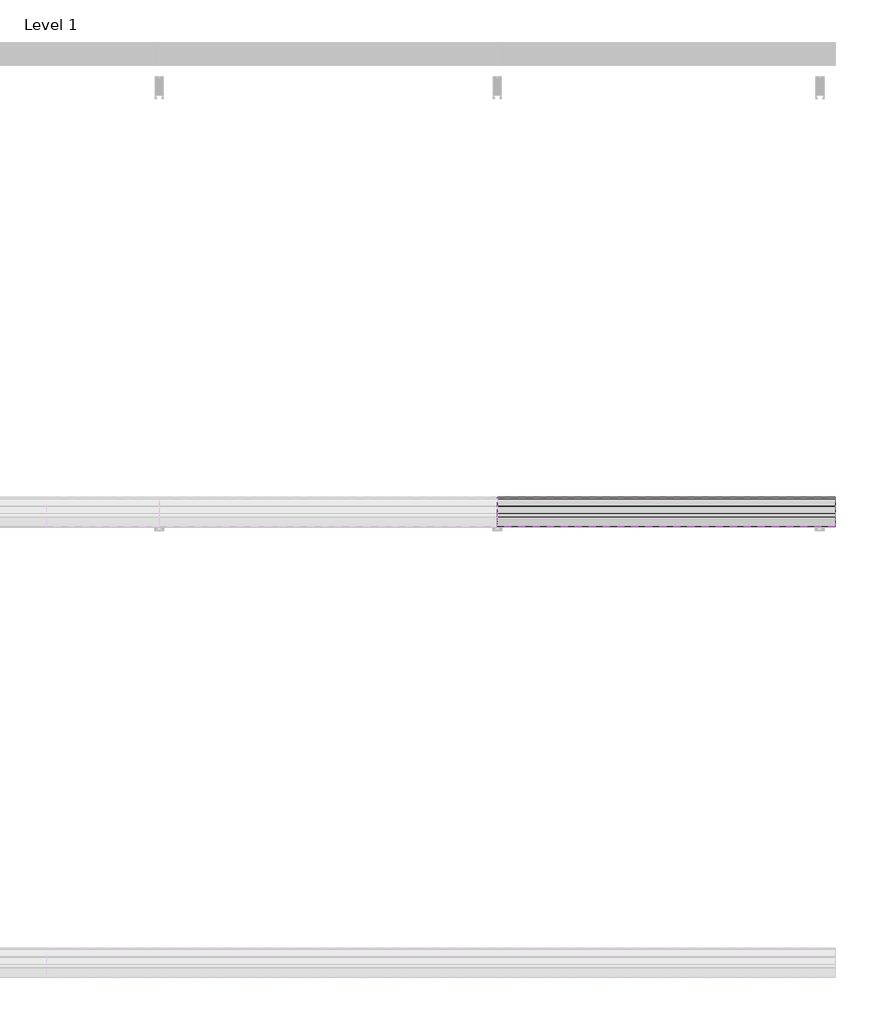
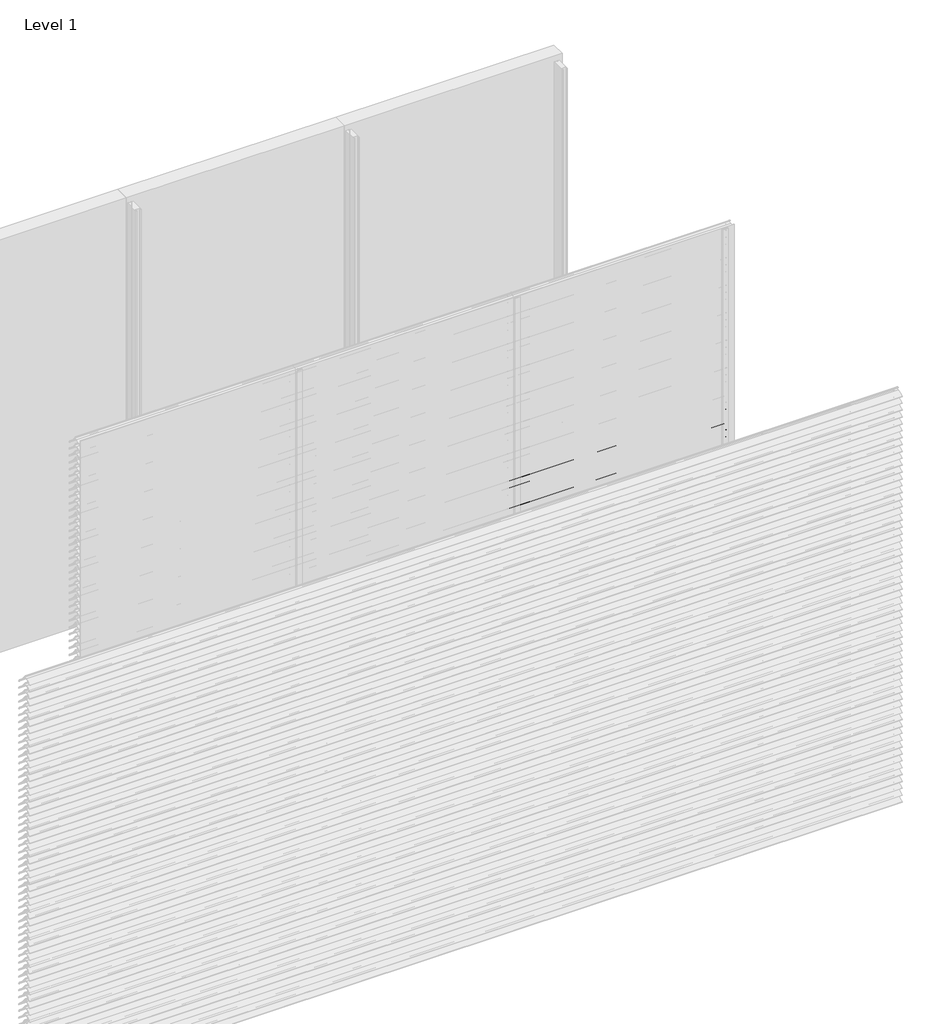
# One storey, part 104 of 173: 18 proxies.
"""IFC4 building model written with IfcOpenShell, lengths in millimetres."""

from ifc_helpers import new_model, si_unit, point, frame, frame_2d, origin, place, context, project, spatial, polyline, circle_curve, trimmed, segment, composite_curve, outline, extrude, element, save

model = new_model("IFC4")

# Units and contexts
model_context = context("Model", 3, world=origin())
ifc_project = project(units=[si_unit("LENGTHUNIT", "METRE", prefix="MILLI")], contexts=[model_context])

# Site, building, storey
site = spatial("IfcSite", under=ifc_project)
building = spatial("IfcBuilding", under=site)
storey = spatial("IfcBuildingStorey", under=building, Name="Level 1", Elevation=0.0)

# Proxies
placement = place(None, origin())
element("IfcBuildingElementProxy", 1, Name="Wall Sweeps", at=placement, inside=storey, context=model_context, shape_type="SweptSolid", body=[
    extrude(outline(composite_curve([segment(polyline([(-23998.0, 1609.1474905), (-23998.0, 1611.6227417)]), True, "CONTINUOUS"), segment(trimmed(circle_curve(frame_2d((-23951.2682172, 1566.2200208)), 65.1557103), [point((-23998.0, 1611.6227417))], [point((-23954.4014323, 1631.3003524))], False, "CARTESIAN"), True, "CONTINUOUS"), segment(polyline([(-23954.4014323, 1631.3003524), (-23934.8315836, 1631.3003524)]), True, "CONTINUOUS"), segment(trimmed(circle_curve(frame_2d((-23732.7329489, 1778.5533172)), 250.0545817), [point((-23934.8315836, 1631.3003524))], [point((-23941.4452143, 1640.8344583))], False, "CARTESIAN"), True, "CONTINUOUS"), segment(trimmed(circle_curve(frame_2d((-23953.2981792, 1635.1737835)), 13.1352966), [point((-23941.4452143, 1640.8344583))], [point((-23953.8171475, 1648.298824))], True, "CARTESIAN"), True, "CONTINUOUS"), segment(polyline([(-23953.8171475, 1648.298824), (-23953.8171475, 1650.0)]), True, "CONTINUOUS"), segment(trimmed(circle_curve(frame_2d((-23953.2981792, 1635.1737835)), 14.8352966), [point((-23953.8171475, 1650.0))], [point((-23939.9637661, 1641.6760487))], False, "CARTESIAN"), True, "CONTINUOUS"), segment(trimmed(circle_curve(frame_2d((-23732.7329489, 1778.5533172)), 248.3545817), [point((-23939.9637661, 1641.6760487))], [point((-23873.8787895, 1574.2059416))], True, "CARTESIAN"), True, "CONTINUOUS"), segment(trimmed(circle_curve(frame_2d((-23883.8147537, 1561.6649442)), 16.0), [point((-23873.8787895, 1574.2059416))], [point((-23867.8648347, 1560.4))], False, "CARTESIAN"), True, "CONTINUOUS"), segment(polyline([(-23867.8648347, 1560.4), (-23869.6712069, 1560.4)]), True, "CONTINUOUS"), segment(trimmed(circle_curve(frame_2d((-23883.8147537, 1561.6649442)), 14.2), [point((-23869.6712069, 1560.4))], [point((-23874.9518628, 1572.7594998))], True, "CARTESIAN"), True, "CONTINUOUS"), segment(trimmed(circle_curve(frame_2d((-23732.7329489, 1778.5533172)), 250.1545817), [point((-23874.9518628, 1572.7594998))], [point((-23933.7064024, 1629.6003524))], False, "CARTESIAN"), True, "CONTINUOUS"), segment(polyline([(-23933.7064024, 1629.6003524), (-23954.3602632, 1629.6003524)]), True, "CONTINUOUS"), segment(trimmed(circle_curve(frame_2d((-23951.2682172, 1566.2200208)), 63.4557103), [point((-23954.3602632, 1629.6003524))], [point((-23998.0, 1609.1474905))], True, "CARTESIAN"), True, "CONTINUOUS")], self_intersect=False)), frame((4500.0, 0.0, 0.0), z_axis=(1.0, 0.0, 0.0), x_axis=(0.0, 1.0, 0.0)), (0.0, 0.0, 1.0), 1500.0),
])
element("IfcBuildingElementProxy", 2, Name="Wall Sweeps", at=placement, inside=storey, context=model_context, shape_type="SweptSolid", body=[
    extrude(outline(composite_curve([segment(polyline([(-23998.0, 1559.1474905), (-23998.0, 1561.6227417)]), True, "CONTINUOUS"), segment(trimmed(circle_curve(frame_2d((-23951.2682172, 1516.2200208)), 65.1557103), [point((-23998.0, 1561.6227417))], [point((-23954.4014323, 1581.3003524))], False, "CARTESIAN"), True, "CONTINUOUS"), segment(polyline([(-23954.4014323, 1581.3003524), (-23934.8315836, 1581.3003524)]), True, "CONTINUOUS"), segment(trimmed(circle_curve(frame_2d((-23732.7329489, 1728.5533172)), 250.0545817), [point((-23934.8315836, 1581.3003524))], [point((-23941.4452143, 1590.8344583))], False, "CARTESIAN"), True, "CONTINUOUS"), segment(trimmed(circle_curve(frame_2d((-23953.2981792, 1585.1737835)), 13.1352966), [point((-23941.4452143, 1590.8344583))], [point((-23953.8171475, 1598.298824))], True, "CARTESIAN"), True, "CONTINUOUS"), segment(polyline([(-23953.8171475, 1598.298824), (-23953.8171475, 1600.0)]), True, "CONTINUOUS"), segment(trimmed(circle_curve(frame_2d((-23953.2981792, 1585.1737835)), 14.8352966), [point((-23953.8171475, 1600.0))], [point((-23939.9637661, 1591.6760487))], False, "CARTESIAN"), True, "CONTINUOUS"), segment(trimmed(circle_curve(frame_2d((-23732.7329489, 1728.5533172)), 248.3545817), [point((-23939.9637661, 1591.6760487))], [point((-23873.8787895, 1524.2059416))], True, "CARTESIAN"), True, "CONTINUOUS"), segment(trimmed(circle_curve(frame_2d((-23883.8147537, 1511.6649442)), 16.0), [point((-23873.8787895, 1524.2059416))], [point((-23867.8648347, 1510.4))], False, "CARTESIAN"), True, "CONTINUOUS"), segment(polyline([(-23867.8648347, 1510.4), (-23869.6712069, 1510.4)]), True, "CONTINUOUS"), segment(trimmed(circle_curve(frame_2d((-23883.8147537, 1511.6649442)), 14.2), [point((-23869.6712069, 1510.4))], [point((-23874.9518628, 1522.7594998))], True, "CARTESIAN"), True, "CONTINUOUS"), segment(trimmed(circle_curve(frame_2d((-23732.7329489, 1728.5533172)), 250.1545817), [point((-23874.9518628, 1522.7594998))], [point((-23933.7064024, 1579.6003524))], False, "CARTESIAN"), True, "CONTINUOUS"), segment(polyline([(-23933.7064024, 1579.6003524), (-23954.3602632, 1579.6003524)]), True, "CONTINUOUS"), segment(trimmed(circle_curve(frame_2d((-23951.2682172, 1516.2200208)), 63.4557103), [point((-23954.3602632, 1579.6003524))], [point((-23998.0, 1559.1474905))], True, "CARTESIAN"), True, "CONTINUOUS")], self_intersect=False)), frame((4500.0, 0.0, 0.0), z_axis=(1.0, 0.0, 0.0), x_axis=(0.0, 1.0, 0.0)), (0.0, 0.0, 1.0), 1500.0),
])
element("IfcBuildingElementProxy", 3, Name="Wall Sweeps", at=placement, inside=storey, context=model_context, shape_type="SweptSolid", body=[
    extrude(outline(composite_curve([segment(polyline([(-23998.0, 1509.1474905), (-23998.0, 1511.6227417)]), True, "CONTINUOUS"), segment(trimmed(circle_curve(frame_2d((-23951.2682172, 1466.2200208)), 65.1557103), [point((-23998.0, 1511.6227417))], [point((-23954.4014323, 1531.3003524))], False, "CARTESIAN"), True, "CONTINUOUS"), segment(polyline([(-23954.4014323, 1531.3003524), (-23934.8315836, 1531.3003524)]), True, "CONTINUOUS"), segment(trimmed(circle_curve(frame_2d((-23732.7329489, 1678.5533172)), 250.0545817), [point((-23934.8315836, 1531.3003524))], [point((-23941.4452143, 1540.8344583))], False, "CARTESIAN"), True, "CONTINUOUS"), segment(trimmed(circle_curve(frame_2d((-23953.2981792, 1535.1737835)), 13.1352966), [point((-23941.4452143, 1540.8344583))], [point((-23953.8171475, 1548.298824))], True, "CARTESIAN"), True, "CONTINUOUS"), segment(polyline([(-23953.8171475, 1548.298824), (-23953.8171475, 1550.0)]), True, "CONTINUOUS"), segment(trimmed(circle_curve(frame_2d((-23953.2981792, 1535.1737835)), 14.8352966), [point((-23953.8171475, 1550.0))], [point((-23939.9637661, 1541.6760487))], False, "CARTESIAN"), True, "CONTINUOUS"), segment(trimmed(circle_curve(frame_2d((-23732.7329489, 1678.5533172)), 248.3545817), [point((-23939.9637661, 1541.6760487))], [point((-23873.8787895, 1474.2059416))], True, "CARTESIAN"), True, "CONTINUOUS"), segment(trimmed(circle_curve(frame_2d((-23883.8147537, 1461.6649442)), 16.0), [point((-23873.8787895, 1474.2059416))], [point((-23867.8648347, 1460.4))], False, "CARTESIAN"), True, "CONTINUOUS"), segment(polyline([(-23867.8648347, 1460.4), (-23869.6712069, 1460.4)]), True, "CONTINUOUS"), segment(trimmed(circle_curve(frame_2d((-23883.8147537, 1461.6649442)), 14.2), [point((-23869.6712069, 1460.4))], [point((-23874.9518628, 1472.7594998))], True, "CARTESIAN"), True, "CONTINUOUS"), segment(trimmed(circle_curve(frame_2d((-23732.7329489, 1678.5533172)), 250.1545817), [point((-23874.9518628, 1472.7594998))], [point((-23933.7064024, 1529.6003524))], False, "CARTESIAN"), True, "CONTINUOUS"), segment(polyline([(-23933.7064024, 1529.6003524), (-23954.3602632, 1529.6003524)]), True, "CONTINUOUS"), segment(trimmed(circle_curve(frame_2d((-23951.2682172, 1466.2200208)), 63.4557103), [point((-23954.3602632, 1529.6003524))], [point((-23998.0, 1509.1474905))], True, "CARTESIAN"), True, "CONTINUOUS")], self_intersect=False)), frame((4500.0, 0.0, 0.0), z_axis=(1.0, 0.0, 0.0), x_axis=(0.0, 1.0, 0.0)), (0.0, 0.0, 1.0), 1500.0),
])
element("IfcBuildingElementProxy", 4, Name="Wall Sweeps", at=placement, inside=storey, context=model_context, shape_type="SweptSolid", body=[
    extrude(outline(composite_curve([segment(polyline([(-23998.0, 1459.1474905), (-23998.0, 1461.6227417)]), True, "CONTINUOUS"), segment(trimmed(circle_curve(frame_2d((-23951.2682172, 1416.2200208)), 65.1557103), [point((-23998.0, 1461.6227417))], [point((-23954.4014323, 1481.3003524))], False, "CARTESIAN"), True, "CONTINUOUS"), segment(polyline([(-23954.4014323, 1481.3003524), (-23934.8315836, 1481.3003524)]), True, "CONTINUOUS"), segment(trimmed(circle_curve(frame_2d((-23732.7329489, 1628.5533172)), 250.0545817), [point((-23934.8315836, 1481.3003524))], [point((-23941.4452143, 1490.8344583))], False, "CARTESIAN"), True, "CONTINUOUS"), segment(trimmed(circle_curve(frame_2d((-23953.2981792, 1485.1737835)), 13.1352966), [point((-23941.4452143, 1490.8344583))], [point((-23953.8171475, 1498.298824))], True, "CARTESIAN"), True, "CONTINUOUS"), segment(polyline([(-23953.8171475, 1498.298824), (-23953.8171475, 1500.0)]), True, "CONTINUOUS"), segment(trimmed(circle_curve(frame_2d((-23953.2981792, 1485.1737835)), 14.8352966), [point((-23953.8171475, 1500.0))], [point((-23939.9637661, 1491.6760487))], False, "CARTESIAN"), True, "CONTINUOUS"), segment(trimmed(circle_curve(frame_2d((-23732.7329489, 1628.5533172)), 248.3545817), [point((-23939.9637661, 1491.6760487))], [point((-23873.8787895, 1424.2059416))], True, "CARTESIAN"), True, "CONTINUOUS"), segment(trimmed(circle_curve(frame_2d((-23883.8147537, 1411.6649442)), 16.0), [point((-23873.8787895, 1424.2059416))], [point((-23867.8648347, 1410.4))], False, "CARTESIAN"), True, "CONTINUOUS"), segment(polyline([(-23867.8648347, 1410.4), (-23869.6712069, 1410.4)]), True, "CONTINUOUS"), segment(trimmed(circle_curve(frame_2d((-23883.8147537, 1411.6649442)), 14.2), [point((-23869.6712069, 1410.4))], [point((-23874.9518628, 1422.7594998))], True, "CARTESIAN"), True, "CONTINUOUS"), segment(trimmed(circle_curve(frame_2d((-23732.7329489, 1628.5533172)), 250.1545817), [point((-23874.9518628, 1422.7594998))], [point((-23933.7064024, 1479.6003524))], False, "CARTESIAN"), True, "CONTINUOUS"), segment(polyline([(-23933.7064024, 1479.6003524), (-23954.3602632, 1479.6003524)]), True, "CONTINUOUS"), segment(trimmed(circle_curve(frame_2d((-23951.2682172, 1416.2200208)), 63.4557103), [point((-23954.3602632, 1479.6003524))], [point((-23998.0, 1459.1474905))], True, "CARTESIAN"), True, "CONTINUOUS")], self_intersect=False)), frame((4500.0, 0.0, 0.0), z_axis=(1.0, 0.0, 0.0), x_axis=(0.0, 1.0, 0.0)), (0.0, 0.0, 1.0), 1500.0),
])
element("IfcBuildingElementProxy", 5, Name="Wall Sweeps", at=placement, inside=storey, context=model_context, shape_type="SweptSolid", body=[
    extrude(outline(composite_curve([segment(polyline([(-23998.0, 1409.1474905), (-23998.0, 1411.6227417)]), True, "CONTINUOUS"), segment(trimmed(circle_curve(frame_2d((-23951.2682172, 1366.2200208)), 65.1557103), [point((-23998.0, 1411.6227417))], [point((-23954.4014323, 1431.3003524))], False, "CARTESIAN"), True, "CONTINUOUS"), segment(polyline([(-23954.4014323, 1431.3003524), (-23934.8315836, 1431.3003524)]), True, "CONTINUOUS"), segment(trimmed(circle_curve(frame_2d((-23732.7329489, 1578.5533172)), 250.0545817), [point((-23934.8315836, 1431.3003524))], [point((-23941.4452143, 1440.8344583))], False, "CARTESIAN"), True, "CONTINUOUS"), segment(trimmed(circle_curve(frame_2d((-23953.2981792, 1435.1737835)), 13.1352966), [point((-23941.4452143, 1440.8344583))], [point((-23953.8171475, 1448.298824))], True, "CARTESIAN"), True, "CONTINUOUS"), segment(polyline([(-23953.8171475, 1448.298824), (-23953.8171475, 1450.0)]), True, "CONTINUOUS"), segment(trimmed(circle_curve(frame_2d((-23953.2981792, 1435.1737835)), 14.8352966), [point((-23953.8171475, 1450.0))], [point((-23939.9637661, 1441.6760487))], False, "CARTESIAN"), True, "CONTINUOUS"), segment(trimmed(circle_curve(frame_2d((-23732.7329489, 1578.5533172)), 248.3545817), [point((-23939.9637661, 1441.6760487))], [point((-23873.8787895, 1374.2059416))], True, "CARTESIAN"), True, "CONTINUOUS"), segment(trimmed(circle_curve(frame_2d((-23883.8147537, 1361.6649442)), 16.0), [point((-23873.8787895, 1374.2059416))], [point((-23867.8648347, 1360.4))], False, "CARTESIAN"), True, "CONTINUOUS"), segment(polyline([(-23867.8648347, 1360.4), (-23869.6712069, 1360.4)]), True, "CONTINUOUS"), segment(trimmed(circle_curve(frame_2d((-23883.8147537, 1361.6649442)), 14.2), [point((-23869.6712069, 1360.4))], [point((-23874.9518628, 1372.7594998))], True, "CARTESIAN"), True, "CONTINUOUS"), segment(trimmed(circle_curve(frame_2d((-23732.7329489, 1578.5533172)), 250.1545817), [point((-23874.9518628, 1372.7594998))], [point((-23933.7064024, 1429.6003524))], False, "CARTESIAN"), True, "CONTINUOUS"), segment(polyline([(-23933.7064024, 1429.6003524), (-23954.3602632, 1429.6003524)]), True, "CONTINUOUS"), segment(trimmed(circle_curve(frame_2d((-23951.2682172, 1366.2200208)), 63.4557103), [point((-23954.3602632, 1429.6003524))], [point((-23998.0, 1409.1474905))], True, "CARTESIAN"), True, "CONTINUOUS")], self_intersect=False)), frame((4500.0, 0.0, 0.0), z_axis=(1.0, 0.0, 0.0), x_axis=(0.0, 1.0, 0.0)), (0.0, 0.0, 1.0), 1500.0),
])
element("IfcBuildingElementProxy", 6, Name="Wall Sweeps", at=placement, inside=storey, context=model_context, shape_type="SweptSolid", body=[
    extrude(outline(composite_curve([segment(polyline([(-23998.0, 1359.1474905), (-23998.0, 1361.6227417)]), True, "CONTINUOUS"), segment(trimmed(circle_curve(frame_2d((-23951.2682172, 1316.2200208)), 65.1557103), [point((-23998.0, 1361.6227417))], [point((-23954.4014323, 1381.3003524))], False, "CARTESIAN"), True, "CONTINUOUS"), segment(polyline([(-23954.4014323, 1381.3003524), (-23934.8315836, 1381.3003524)]), True, "CONTINUOUS"), segment(trimmed(circle_curve(frame_2d((-23732.7329489, 1528.5533172)), 250.0545817), [point((-23934.8315836, 1381.3003524))], [point((-23941.4452143, 1390.8344583))], False, "CARTESIAN"), True, "CONTINUOUS"), segment(trimmed(circle_curve(frame_2d((-23953.2981792, 1385.1737835)), 13.1352966), [point((-23941.4452143, 1390.8344583))], [point((-23953.8171475, 1398.298824))], True, "CARTESIAN"), True, "CONTINUOUS"), segment(polyline([(-23953.8171475, 1398.298824), (-23953.8171475, 1400.0)]), True, "CONTINUOUS"), segment(trimmed(circle_curve(frame_2d((-23953.2981792, 1385.1737835)), 14.8352966), [point((-23953.8171475, 1400.0))], [point((-23939.9637661, 1391.6760487))], False, "CARTESIAN"), True, "CONTINUOUS"), segment(trimmed(circle_curve(frame_2d((-23732.7329489, 1528.5533172)), 248.3545817), [point((-23939.9637661, 1391.6760487))], [point((-23873.8787895, 1324.2059416))], True, "CARTESIAN"), True, "CONTINUOUS"), segment(trimmed(circle_curve(frame_2d((-23883.8147537, 1311.6649442)), 16.0), [point((-23873.8787895, 1324.2059416))], [point((-23867.8648347, 1310.4))], False, "CARTESIAN"), True, "CONTINUOUS"), segment(polyline([(-23867.8648347, 1310.4), (-23869.6712069, 1310.4)]), True, "CONTINUOUS"), segment(trimmed(circle_curve(frame_2d((-23883.8147537, 1311.6649442)), 14.2), [point((-23869.6712069, 1310.4))], [point((-23874.9518628, 1322.7594998))], True, "CARTESIAN"), True, "CONTINUOUS"), segment(trimmed(circle_curve(frame_2d((-23732.7329489, 1528.5533172)), 250.1545817), [point((-23874.9518628, 1322.7594998))], [point((-23933.7064024, 1379.6003524))], False, "CARTESIAN"), True, "CONTINUOUS"), segment(polyline([(-23933.7064024, 1379.6003524), (-23954.3602632, 1379.6003524)]), True, "CONTINUOUS"), segment(trimmed(circle_curve(frame_2d((-23951.2682172, 1316.2200208)), 63.4557103), [point((-23954.3602632, 1379.6003524))], [point((-23998.0, 1359.1474905))], True, "CARTESIAN"), True, "CONTINUOUS")], self_intersect=False)), frame((4500.0, 0.0, 0.0), z_axis=(1.0, 0.0, 0.0), x_axis=(0.0, 1.0, 0.0)), (0.0, 0.0, 1.0), 1500.0),
])
element("IfcBuildingElementProxy", 7, Name="Wall Sweeps", at=placement, inside=storey, context=model_context, shape_type="SweptSolid", body=[
    extrude(outline(composite_curve([segment(polyline([(-23998.0, 1309.1474905), (-23998.0, 1311.6227417)]), True, "CONTINUOUS"), segment(trimmed(circle_curve(frame_2d((-23951.2682172, 1266.2200208)), 65.1557103), [point((-23998.0, 1311.6227417))], [point((-23954.4014323, 1331.3003524))], False, "CARTESIAN"), True, "CONTINUOUS"), segment(polyline([(-23954.4014323, 1331.3003524), (-23934.8315836, 1331.3003524)]), True, "CONTINUOUS"), segment(trimmed(circle_curve(frame_2d((-23732.7329489, 1478.5533172)), 250.0545817), [point((-23934.8315836, 1331.3003524))], [point((-23941.4452143, 1340.8344583))], False, "CARTESIAN"), True, "CONTINUOUS"), segment(trimmed(circle_curve(frame_2d((-23953.2981792, 1335.1737835)), 13.1352966), [point((-23941.4452143, 1340.8344583))], [point((-23953.8171475, 1348.298824))], True, "CARTESIAN"), True, "CONTINUOUS"), segment(polyline([(-23953.8171475, 1348.298824), (-23953.8171475, 1350.0)]), True, "CONTINUOUS"), segment(trimmed(circle_curve(frame_2d((-23953.2981792, 1335.1737835)), 14.8352966), [point((-23953.8171475, 1350.0))], [point((-23939.9637661, 1341.6760487))], False, "CARTESIAN"), True, "CONTINUOUS"), segment(trimmed(circle_curve(frame_2d((-23732.7329489, 1478.5533172)), 248.3545817), [point((-23939.9637661, 1341.6760487))], [point((-23873.8787895, 1274.2059416))], True, "CARTESIAN"), True, "CONTINUOUS"), segment(trimmed(circle_curve(frame_2d((-23883.8147537, 1261.6649442)), 16.0), [point((-23873.8787895, 1274.2059416))], [point((-23867.8648347, 1260.4))], False, "CARTESIAN"), True, "CONTINUOUS"), segment(polyline([(-23867.8648347, 1260.4), (-23869.6712069, 1260.4)]), True, "CONTINUOUS"), segment(trimmed(circle_curve(frame_2d((-23883.8147537, 1261.6649442)), 14.2), [point((-23869.6712069, 1260.4))], [point((-23874.9518628, 1272.7594998))], True, "CARTESIAN"), True, "CONTINUOUS"), segment(trimmed(circle_curve(frame_2d((-23732.7329489, 1478.5533172)), 250.1545817), [point((-23874.9518628, 1272.7594998))], [point((-23933.7064024, 1329.6003524))], False, "CARTESIAN"), True, "CONTINUOUS"), segment(polyline([(-23933.7064024, 1329.6003524), (-23954.3602632, 1329.6003524)]), True, "CONTINUOUS"), segment(trimmed(circle_curve(frame_2d((-23951.2682172, 1266.2200208)), 63.4557103), [point((-23954.3602632, 1329.6003524))], [point((-23998.0, 1309.1474905))], True, "CARTESIAN"), True, "CONTINUOUS")], self_intersect=False)), frame((4500.0, 0.0, 0.0), z_axis=(1.0, 0.0, 0.0), x_axis=(0.0, 1.0, 0.0)), (0.0, 0.0, 1.0), 1500.0),
])
element("IfcBuildingElementProxy", 8, Name="Wall Sweeps", at=placement, inside=storey, context=model_context, shape_type="SweptSolid", body=[
    extrude(outline(composite_curve([segment(polyline([(-23998.0, 1259.1474905), (-23998.0, 1261.6227417)]), True, "CONTINUOUS"), segment(trimmed(circle_curve(frame_2d((-23951.2682172, 1216.2200208)), 65.1557103), [point((-23998.0, 1261.6227417))], [point((-23954.4014323, 1281.3003524))], False, "CARTESIAN"), True, "CONTINUOUS"), segment(polyline([(-23954.4014323, 1281.3003524), (-23934.8315836, 1281.3003524)]), True, "CONTINUOUS"), segment(trimmed(circle_curve(frame_2d((-23732.7329489, 1428.5533172)), 250.0545817), [point((-23934.8315836, 1281.3003524))], [point((-23941.4452143, 1290.8344583))], False, "CARTESIAN"), True, "CONTINUOUS"), segment(trimmed(circle_curve(frame_2d((-23953.2981792, 1285.1737835)), 13.1352966), [point((-23941.4452143, 1290.8344583))], [point((-23953.8171475, 1298.298824))], True, "CARTESIAN"), True, "CONTINUOUS"), segment(polyline([(-23953.8171475, 1298.298824), (-23953.8171475, 1300.0)]), True, "CONTINUOUS"), segment(trimmed(circle_curve(frame_2d((-23953.2981792, 1285.1737835)), 14.8352966), [point((-23953.8171475, 1300.0))], [point((-23939.9637661, 1291.6760487))], False, "CARTESIAN"), True, "CONTINUOUS"), segment(trimmed(circle_curve(frame_2d((-23732.7329489, 1428.5533172)), 248.3545817), [point((-23939.9637661, 1291.6760487))], [point((-23873.8787895, 1224.2059416))], True, "CARTESIAN"), True, "CONTINUOUS"), segment(trimmed(circle_curve(frame_2d((-23883.8147537, 1211.6649442)), 16.0), [point((-23873.8787895, 1224.2059416))], [point((-23867.8648347, 1210.4))], False, "CARTESIAN"), True, "CONTINUOUS"), segment(polyline([(-23867.8648347, 1210.4), (-23869.6712069, 1210.4)]), True, "CONTINUOUS"), segment(trimmed(circle_curve(frame_2d((-23883.8147537, 1211.6649442)), 14.2), [point((-23869.6712069, 1210.4))], [point((-23874.9518628, 1222.7594998))], True, "CARTESIAN"), True, "CONTINUOUS"), segment(trimmed(circle_curve(frame_2d((-23732.7329489, 1428.5533172)), 250.1545817), [point((-23874.9518628, 1222.7594998))], [point((-23933.7064024, 1279.6003524))], False, "CARTESIAN"), True, "CONTINUOUS"), segment(polyline([(-23933.7064024, 1279.6003524), (-23954.3602632, 1279.6003524)]), True, "CONTINUOUS"), segment(trimmed(circle_curve(frame_2d((-23951.2682172, 1216.2200208)), 63.4557103), [point((-23954.3602632, 1279.6003524))], [point((-23998.0, 1259.1474905))], True, "CARTESIAN"), True, "CONTINUOUS")], self_intersect=False)), frame((4500.0, 0.0, 0.0), z_axis=(1.0, 0.0, 0.0), x_axis=(0.0, 1.0, 0.0)), (0.0, 0.0, 1.0), 1500.0),
])
element("IfcBuildingElementProxy", 9, Name="Wall Sweeps", at=placement, inside=storey, context=model_context, shape_type="SweptSolid", body=[
    extrude(outline(composite_curve([segment(polyline([(-23998.0, 1209.1474905), (-23998.0, 1211.6227417)]), True, "CONTINUOUS"), segment(trimmed(circle_curve(frame_2d((-23951.2682172, 1166.2200208)), 65.1557103), [point((-23998.0, 1211.6227417))], [point((-23954.4014323, 1231.3003524))], False, "CARTESIAN"), True, "CONTINUOUS"), segment(polyline([(-23954.4014323, 1231.3003524), (-23934.8315836, 1231.3003524)]), True, "CONTINUOUS"), segment(trimmed(circle_curve(frame_2d((-23732.7329489, 1378.5533172)), 250.0545817), [point((-23934.8315836, 1231.3003524))], [point((-23941.4452143, 1240.8344583))], False, "CARTESIAN"), True, "CONTINUOUS"), segment(trimmed(circle_curve(frame_2d((-23953.2981792, 1235.1737835)), 13.1352966), [point((-23941.4452143, 1240.8344583))], [point((-23953.8171475, 1248.298824))], True, "CARTESIAN"), True, "CONTINUOUS"), segment(polyline([(-23953.8171475, 1248.298824), (-23953.8171475, 1250.0)]), True, "CONTINUOUS"), segment(trimmed(circle_curve(frame_2d((-23953.2981792, 1235.1737835)), 14.8352966), [point((-23953.8171475, 1250.0))], [point((-23939.9637661, 1241.6760487))], False, "CARTESIAN"), True, "CONTINUOUS"), segment(trimmed(circle_curve(frame_2d((-23732.7329489, 1378.5533172)), 248.3545817), [point((-23939.9637661, 1241.6760487))], [point((-23873.8787895, 1174.2059416))], True, "CARTESIAN"), True, "CONTINUOUS"), segment(trimmed(circle_curve(frame_2d((-23883.8147537, 1161.6649442)), 16.0), [point((-23873.8787895, 1174.2059416))], [point((-23867.8648347, 1160.4))], False, "CARTESIAN"), True, "CONTINUOUS"), segment(polyline([(-23867.8648347, 1160.4), (-23869.6712069, 1160.4)]), True, "CONTINUOUS"), segment(trimmed(circle_curve(frame_2d((-23883.8147537, 1161.6649442)), 14.2), [point((-23869.6712069, 1160.4))], [point((-23874.9518628, 1172.7594998))], True, "CARTESIAN"), True, "CONTINUOUS"), segment(trimmed(circle_curve(frame_2d((-23732.7329489, 1378.5533172)), 250.1545817), [point((-23874.9518628, 1172.7594998))], [point((-23933.7064024, 1229.6003524))], False, "CARTESIAN"), True, "CONTINUOUS"), segment(polyline([(-23933.7064024, 1229.6003524), (-23954.3602632, 1229.6003524)]), True, "CONTINUOUS"), segment(trimmed(circle_curve(frame_2d((-23951.2682172, 1166.2200208)), 63.4557103), [point((-23954.3602632, 1229.6003524))], [point((-23998.0, 1209.1474905))], True, "CARTESIAN"), True, "CONTINUOUS")], self_intersect=False)), frame((4500.0, 0.0, 0.0), z_axis=(1.0, 0.0, 0.0), x_axis=(0.0, 1.0, 0.0)), (0.0, 0.0, 1.0), 1500.0),
])
element("IfcBuildingElementProxy", 10, Name="Wall Sweeps", at=placement, inside=storey, context=model_context, shape_type="SweptSolid", body=[
    extrude(outline(composite_curve([segment(polyline([(-23998.0, 1159.1474905), (-23998.0, 1161.6227417)]), True, "CONTINUOUS"), segment(trimmed(circle_curve(frame_2d((-23951.2682172, 1116.2200208)), 65.1557103), [point((-23998.0, 1161.6227417))], [point((-23954.4014323, 1181.3003524))], False, "CARTESIAN"), True, "CONTINUOUS"), segment(polyline([(-23954.4014323, 1181.3003524), (-23934.8315836, 1181.3003524)]), True, "CONTINUOUS"), segment(trimmed(circle_curve(frame_2d((-23732.7329489, 1328.5533172)), 250.0545817), [point((-23934.8315836, 1181.3003524))], [point((-23941.4452143, 1190.8344583))], False, "CARTESIAN"), True, "CONTINUOUS"), segment(trimmed(circle_curve(frame_2d((-23953.2981792, 1185.1737835)), 13.1352966), [point((-23941.4452143, 1190.8344583))], [point((-23953.8171475, 1198.298824))], True, "CARTESIAN"), True, "CONTINUOUS"), segment(polyline([(-23953.8171475, 1198.298824), (-23953.8171475, 1200.0)]), True, "CONTINUOUS"), segment(trimmed(circle_curve(frame_2d((-23953.2981792, 1185.1737835)), 14.8352966), [point((-23953.8171475, 1200.0))], [point((-23939.9637661, 1191.6760487))], False, "CARTESIAN"), True, "CONTINUOUS"), segment(trimmed(circle_curve(frame_2d((-23732.7329489, 1328.5533172)), 248.3545817), [point((-23939.9637661, 1191.6760487))], [point((-23873.8787895, 1124.2059416))], True, "CARTESIAN"), True, "CONTINUOUS"), segment(trimmed(circle_curve(frame_2d((-23883.8147537, 1111.6649442)), 16.0), [point((-23873.8787895, 1124.2059416))], [point((-23867.8648347, 1110.4))], False, "CARTESIAN"), True, "CONTINUOUS"), segment(polyline([(-23867.8648347, 1110.4), (-23869.6712069, 1110.4)]), True, "CONTINUOUS"), segment(trimmed(circle_curve(frame_2d((-23883.8147537, 1111.6649442)), 14.2), [point((-23869.6712069, 1110.4))], [point((-23874.9518628, 1122.7594998))], True, "CARTESIAN"), True, "CONTINUOUS"), segment(trimmed(circle_curve(frame_2d((-23732.7329489, 1328.5533172)), 250.1545817), [point((-23874.9518628, 1122.7594998))], [point((-23933.7064024, 1179.6003524))], False, "CARTESIAN"), True, "CONTINUOUS"), segment(polyline([(-23933.7064024, 1179.6003524), (-23954.3602632, 1179.6003524)]), True, "CONTINUOUS"), segment(trimmed(circle_curve(frame_2d((-23951.2682172, 1116.2200208)), 63.4557103), [point((-23954.3602632, 1179.6003524))], [point((-23998.0, 1159.1474905))], True, "CARTESIAN"), True, "CONTINUOUS")], self_intersect=False)), frame((4500.0, 0.0, 0.0), z_axis=(1.0, 0.0, 0.0), x_axis=(0.0, 1.0, 0.0)), (0.0, 0.0, 1.0), 1500.0),
])
element("IfcBuildingElementProxy", 11, Name="Wall Sweeps", at=placement, inside=storey, context=model_context, shape_type="SweptSolid", body=[
    extrude(outline(composite_curve([segment(polyline([(-23998.0, 1109.1474905), (-23998.0, 1111.6227417)]), True, "CONTINUOUS"), segment(trimmed(circle_curve(frame_2d((-23951.2682172, 1066.2200208)), 65.1557103), [point((-23998.0, 1111.6227417))], [point((-23954.4014323, 1131.3003524))], False, "CARTESIAN"), True, "CONTINUOUS"), segment(polyline([(-23954.4014323, 1131.3003524), (-23934.8315836, 1131.3003524)]), True, "CONTINUOUS"), segment(trimmed(circle_curve(frame_2d((-23732.7329489, 1278.5533172)), 250.0545817), [point((-23934.8315836, 1131.3003524))], [point((-23941.4452143, 1140.8344583))], False, "CARTESIAN"), True, "CONTINUOUS"), segment(trimmed(circle_curve(frame_2d((-23953.2981792, 1135.1737835)), 13.1352966), [point((-23941.4452143, 1140.8344583))], [point((-23953.8171475, 1148.298824))], True, "CARTESIAN"), True, "CONTINUOUS"), segment(polyline([(-23953.8171475, 1148.298824), (-23953.8171475, 1150.0)]), True, "CONTINUOUS"), segment(trimmed(circle_curve(frame_2d((-23953.2981792, 1135.1737835)), 14.8352966), [point((-23953.8171475, 1150.0))], [point((-23939.9637661, 1141.6760487))], False, "CARTESIAN"), True, "CONTINUOUS"), segment(trimmed(circle_curve(frame_2d((-23732.7329489, 1278.5533172)), 248.3545817), [point((-23939.9637661, 1141.6760487))], [point((-23873.8787895, 1074.2059416))], True, "CARTESIAN"), True, "CONTINUOUS"), segment(trimmed(circle_curve(frame_2d((-23883.8147537, 1061.6649442)), 16.0), [point((-23873.8787895, 1074.2059416))], [point((-23867.8648347, 1060.4))], False, "CARTESIAN"), True, "CONTINUOUS"), segment(polyline([(-23867.8648347, 1060.4), (-23869.6712069, 1060.4)]), True, "CONTINUOUS"), segment(trimmed(circle_curve(frame_2d((-23883.8147537, 1061.6649442)), 14.2), [point((-23869.6712069, 1060.4))], [point((-23874.9518628, 1072.7594998))], True, "CARTESIAN"), True, "CONTINUOUS"), segment(trimmed(circle_curve(frame_2d((-23732.7329489, 1278.5533172)), 250.1545817), [point((-23874.9518628, 1072.7594998))], [point((-23933.7064024, 1129.6003524))], False, "CARTESIAN"), True, "CONTINUOUS"), segment(polyline([(-23933.7064024, 1129.6003524), (-23954.3602632, 1129.6003524)]), True, "CONTINUOUS"), segment(trimmed(circle_curve(frame_2d((-23951.2682172, 1066.2200208)), 63.4557103), [point((-23954.3602632, 1129.6003524))], [point((-23998.0, 1109.1474905))], True, "CARTESIAN"), True, "CONTINUOUS")], self_intersect=False)), frame((4500.0, 0.0, 0.0), z_axis=(1.0, 0.0, 0.0), x_axis=(0.0, 1.0, 0.0)), (0.0, 0.0, 1.0), 1500.0),
])
element("IfcBuildingElementProxy", 12, Name="Wall Sweeps", at=placement, inside=storey, context=model_context, shape_type="SweptSolid", body=[
    extrude(outline(composite_curve([segment(polyline([(-23998.0, 1059.1474905), (-23998.0, 1061.6227417)]), True, "CONTINUOUS"), segment(trimmed(circle_curve(frame_2d((-23951.2682172, 1016.2200208)), 65.1557103), [point((-23998.0, 1061.6227417))], [point((-23954.4014323, 1081.3003524))], False, "CARTESIAN"), True, "CONTINUOUS"), segment(polyline([(-23954.4014323, 1081.3003524), (-23934.8315836, 1081.3003524)]), True, "CONTINUOUS"), segment(trimmed(circle_curve(frame_2d((-23732.7329489, 1228.5533172)), 250.0545817), [point((-23934.8315836, 1081.3003524))], [point((-23941.4452143, 1090.8344583))], False, "CARTESIAN"), True, "CONTINUOUS"), segment(trimmed(circle_curve(frame_2d((-23953.2981792, 1085.1737835)), 13.1352966), [point((-23941.4452143, 1090.8344583))], [point((-23953.8171475, 1098.298824))], True, "CARTESIAN"), True, "CONTINUOUS"), segment(polyline([(-23953.8171475, 1098.298824), (-23953.8171475, 1100.0)]), True, "CONTINUOUS"), segment(trimmed(circle_curve(frame_2d((-23953.2981792, 1085.1737835)), 14.8352966), [point((-23953.8171475, 1100.0))], [point((-23939.9637661, 1091.6760487))], False, "CARTESIAN"), True, "CONTINUOUS"), segment(trimmed(circle_curve(frame_2d((-23732.7329489, 1228.5533172)), 248.3545817), [point((-23939.9637661, 1091.6760487))], [point((-23873.8787895, 1024.2059416))], True, "CARTESIAN"), True, "CONTINUOUS"), segment(trimmed(circle_curve(frame_2d((-23883.8147537, 1011.6649442)), 16.0), [point((-23873.8787895, 1024.2059416))], [point((-23867.8648347, 1010.4))], False, "CARTESIAN"), True, "CONTINUOUS"), segment(polyline([(-23867.8648347, 1010.4), (-23869.6712069, 1010.4)]), True, "CONTINUOUS"), segment(trimmed(circle_curve(frame_2d((-23883.8147537, 1011.6649442)), 14.2), [point((-23869.6712069, 1010.4))], [point((-23874.9518628, 1022.7594998))], True, "CARTESIAN"), True, "CONTINUOUS"), segment(trimmed(circle_curve(frame_2d((-23732.7329489, 1228.5533172)), 250.1545817), [point((-23874.9518628, 1022.7594998))], [point((-23933.7064024, 1079.6003524))], False, "CARTESIAN"), True, "CONTINUOUS"), segment(polyline([(-23933.7064024, 1079.6003524), (-23954.3602632, 1079.6003524)]), True, "CONTINUOUS"), segment(trimmed(circle_curve(frame_2d((-23951.2682172, 1016.2200208)), 63.4557103), [point((-23954.3602632, 1079.6003524))], [point((-23998.0, 1059.1474905))], True, "CARTESIAN"), True, "CONTINUOUS")], self_intersect=False)), frame((4500.0, 0.0, 0.0), z_axis=(1.0, 0.0, 0.0), x_axis=(0.0, 1.0, 0.0)), (0.0, 0.0, 1.0), 1500.0),
])
element("IfcBuildingElementProxy", 13, Name="Wall Sweeps", at=placement, inside=storey, context=model_context, shape_type="SweptSolid", body=[
    extrude(outline(composite_curve([segment(polyline([(-23998.0, 1009.1474905), (-23998.0, 1011.6227417)]), True, "CONTINUOUS"), segment(trimmed(circle_curve(frame_2d((-23951.2682172, 966.2200208)), 65.1557103), [point((-23998.0, 1011.6227417))], [point((-23954.4014323, 1031.3003524))], False, "CARTESIAN"), True, "CONTINUOUS"), segment(polyline([(-23954.4014323, 1031.3003524), (-23934.8315836, 1031.3003524)]), True, "CONTINUOUS"), segment(trimmed(circle_curve(frame_2d((-23732.7329489, 1178.5533172)), 250.0545817), [point((-23934.8315836, 1031.3003524))], [point((-23941.4452143, 1040.8344583))], False, "CARTESIAN"), True, "CONTINUOUS"), segment(trimmed(circle_curve(frame_2d((-23953.2981792, 1035.1737835)), 13.1352966), [point((-23941.4452143, 1040.8344583))], [point((-23953.8171475, 1048.298824))], True, "CARTESIAN"), True, "CONTINUOUS"), segment(polyline([(-23953.8171475, 1048.298824), (-23953.8171475, 1050.0)]), True, "CONTINUOUS"), segment(trimmed(circle_curve(frame_2d((-23953.2981792, 1035.1737835)), 14.8352966), [point((-23953.8171475, 1050.0))], [point((-23939.9637661, 1041.6760487))], False, "CARTESIAN"), True, "CONTINUOUS"), segment(trimmed(circle_curve(frame_2d((-23732.7329489, 1178.5533172)), 248.3545817), [point((-23939.9637661, 1041.6760487))], [point((-23873.8787895, 974.2059416))], True, "CARTESIAN"), True, "CONTINUOUS"), segment(trimmed(circle_curve(frame_2d((-23883.8147537, 961.6649442)), 16.0), [point((-23873.8787895, 974.2059416))], [point((-23867.8648347, 960.4))], False, "CARTESIAN"), True, "CONTINUOUS"), segment(polyline([(-23867.8648347, 960.4), (-23869.6712069, 960.4)]), True, "CONTINUOUS"), segment(trimmed(circle_curve(frame_2d((-23883.8147537, 961.6649442)), 14.2), [point((-23869.6712069, 960.4))], [point((-23874.9518628, 972.7594998))], True, "CARTESIAN"), True, "CONTINUOUS"), segment(trimmed(circle_curve(frame_2d((-23732.7329489, 1178.5533172)), 250.1545817), [point((-23874.9518628, 972.7594998))], [point((-23933.7064024, 1029.6003524))], False, "CARTESIAN"), True, "CONTINUOUS"), segment(polyline([(-23933.7064024, 1029.6003524), (-23954.3602632, 1029.6003524)]), True, "CONTINUOUS"), segment(trimmed(circle_curve(frame_2d((-23951.2682172, 966.2200208)), 63.4557103), [point((-23954.3602632, 1029.6003524))], [point((-23998.0, 1009.1474905))], True, "CARTESIAN"), True, "CONTINUOUS")], self_intersect=False)), frame((4500.0, 0.0, 0.0), z_axis=(1.0, 0.0, 0.0), x_axis=(0.0, 1.0, 0.0)), (0.0, 0.0, 1.0), 1500.0),
])
element("IfcBuildingElementProxy", 14, Name="Wall Sweeps", at=placement, inside=storey, context=model_context, shape_type="SweptSolid", body=[
    extrude(outline(composite_curve([segment(polyline([(-23998.0, 959.1474905), (-23998.0, 961.6227417)]), True, "CONTINUOUS"), segment(trimmed(circle_curve(frame_2d((-23951.2682172, 916.2200208)), 65.1557103), [point((-23998.0, 961.6227417))], [point((-23954.4014323, 981.3003524))], False, "CARTESIAN"), True, "CONTINUOUS"), segment(polyline([(-23954.4014323, 981.3003524), (-23934.8315836, 981.3003524)]), True, "CONTINUOUS"), segment(trimmed(circle_curve(frame_2d((-23732.7329489, 1128.5533172)), 250.0545817), [point((-23934.8315836, 981.3003524))], [point((-23941.4452143, 990.8344583))], False, "CARTESIAN"), True, "CONTINUOUS"), segment(trimmed(circle_curve(frame_2d((-23953.2981792, 985.1737835)), 13.1352966), [point((-23941.4452143, 990.8344583))], [point((-23953.8171475, 998.298824))], True, "CARTESIAN"), True, "CONTINUOUS"), segment(polyline([(-23953.8171475, 998.298824), (-23953.8171475, 1000.0)]), True, "CONTINUOUS"), segment(trimmed(circle_curve(frame_2d((-23953.2981792, 985.1737835)), 14.8352966), [point((-23953.8171475, 1000.0))], [point((-23939.9637661, 991.6760487))], False, "CARTESIAN"), True, "CONTINUOUS"), segment(trimmed(circle_curve(frame_2d((-23732.7329489, 1128.5533172)), 248.3545817), [point((-23939.9637661, 991.6760487))], [point((-23873.8787895, 924.2059416))], True, "CARTESIAN"), True, "CONTINUOUS"), segment(trimmed(circle_curve(frame_2d((-23883.8147537, 911.6649442)), 16.0), [point((-23873.8787895, 924.2059416))], [point((-23867.8648347, 910.4))], False, "CARTESIAN"), True, "CONTINUOUS"), segment(polyline([(-23867.8648347, 910.4), (-23869.6712069, 910.4)]), True, "CONTINUOUS"), segment(trimmed(circle_curve(frame_2d((-23883.8147537, 911.6649442)), 14.2), [point((-23869.6712069, 910.4))], [point((-23874.9518628, 922.7594998))], True, "CARTESIAN"), True, "CONTINUOUS"), segment(trimmed(circle_curve(frame_2d((-23732.7329489, 1128.5533172)), 250.1545817), [point((-23874.9518628, 922.7594998))], [point((-23933.7064024, 979.6003524))], False, "CARTESIAN"), True, "CONTINUOUS"), segment(polyline([(-23933.7064024, 979.6003524), (-23954.3602632, 979.6003524)]), True, "CONTINUOUS"), segment(trimmed(circle_curve(frame_2d((-23951.2682172, 916.2200208)), 63.4557103), [point((-23954.3602632, 979.6003524))], [point((-23998.0, 959.1474905))], True, "CARTESIAN"), True, "CONTINUOUS")], self_intersect=False)), frame((4500.0, 0.0, 0.0), z_axis=(1.0, 0.0, 0.0), x_axis=(0.0, 1.0, 0.0)), (0.0, 0.0, 1.0), 1500.0),
])
element("IfcBuildingElementProxy", 15, Name="Wall Sweeps", at=placement, inside=storey, context=model_context, shape_type="SweptSolid", body=[
    extrude(outline(composite_curve([segment(polyline([(-23998.0, 909.1474905), (-23998.0, 911.6227417)]), True, "CONTINUOUS"), segment(trimmed(circle_curve(frame_2d((-23951.2682172, 866.2200208)), 65.1557103), [point((-23998.0, 911.6227417))], [point((-23954.4014323, 931.3003524))], False, "CARTESIAN"), True, "CONTINUOUS"), segment(polyline([(-23954.4014323, 931.3003524), (-23934.8315836, 931.3003524)]), True, "CONTINUOUS"), segment(trimmed(circle_curve(frame_2d((-23732.7329489, 1078.5533172)), 250.0545817), [point((-23934.8315836, 931.3003524))], [point((-23941.4452143, 940.8344583))], False, "CARTESIAN"), True, "CONTINUOUS"), segment(trimmed(circle_curve(frame_2d((-23953.2981792, 935.1737835)), 13.1352966), [point((-23941.4452143, 940.8344583))], [point((-23953.8171475, 948.298824))], True, "CARTESIAN"), True, "CONTINUOUS"), segment(polyline([(-23953.8171475, 948.298824), (-23953.8171475, 950.0)]), True, "CONTINUOUS"), segment(trimmed(circle_curve(frame_2d((-23953.2981792, 935.1737835)), 14.8352966), [point((-23953.8171475, 950.0))], [point((-23939.9637661, 941.6760487))], False, "CARTESIAN"), True, "CONTINUOUS"), segment(trimmed(circle_curve(frame_2d((-23732.7329489, 1078.5533172)), 248.3545817), [point((-23939.9637661, 941.6760487))], [point((-23873.8787895, 874.2059416))], True, "CARTESIAN"), True, "CONTINUOUS"), segment(trimmed(circle_curve(frame_2d((-23883.8147537, 861.6649442)), 16.0), [point((-23873.8787895, 874.2059416))], [point((-23867.8648347, 860.4))], False, "CARTESIAN"), True, "CONTINUOUS"), segment(polyline([(-23867.8648347, 860.4), (-23869.6712069, 860.4)]), True, "CONTINUOUS"), segment(trimmed(circle_curve(frame_2d((-23883.8147537, 861.6649442)), 14.2), [point((-23869.6712069, 860.4))], [point((-23874.9518628, 872.7594998))], True, "CARTESIAN"), True, "CONTINUOUS"), segment(trimmed(circle_curve(frame_2d((-23732.7329489, 1078.5533172)), 250.1545817), [point((-23874.9518628, 872.7594998))], [point((-23933.7064024, 929.6003524))], False, "CARTESIAN"), True, "CONTINUOUS"), segment(polyline([(-23933.7064024, 929.6003524), (-23954.3602632, 929.6003524)]), True, "CONTINUOUS"), segment(trimmed(circle_curve(frame_2d((-23951.2682172, 866.2200208)), 63.4557103), [point((-23954.3602632, 929.6003524))], [point((-23998.0, 909.1474905))], True, "CARTESIAN"), True, "CONTINUOUS")], self_intersect=False)), frame((4500.0, 0.0, 0.0), z_axis=(1.0, 0.0, 0.0), x_axis=(0.0, 1.0, 0.0)), (0.0, 0.0, 1.0), 1500.0),
])
element("IfcBuildingElementProxy", 16, Name="Wall Sweeps", at=placement, inside=storey, context=model_context, shape_type="SweptSolid", body=[
    extrude(outline(composite_curve([segment(polyline([(-23998.0, 859.1474905), (-23998.0, 861.6227417)]), True, "CONTINUOUS"), segment(trimmed(circle_curve(frame_2d((-23951.2682172, 816.2200208)), 65.1557103), [point((-23998.0, 861.6227417))], [point((-23954.4014323, 881.3003524))], False, "CARTESIAN"), True, "CONTINUOUS"), segment(polyline([(-23954.4014323, 881.3003524), (-23934.8315836, 881.3003524)]), True, "CONTINUOUS"), segment(trimmed(circle_curve(frame_2d((-23732.7329489, 1028.5533172)), 250.0545817), [point((-23934.8315836, 881.3003524))], [point((-23941.4452143, 890.8344583))], False, "CARTESIAN"), True, "CONTINUOUS"), segment(trimmed(circle_curve(frame_2d((-23953.2981792, 885.1737835)), 13.1352966), [point((-23941.4452143, 890.8344583))], [point((-23953.8171475, 898.298824))], True, "CARTESIAN"), True, "CONTINUOUS"), segment(polyline([(-23953.8171475, 898.298824), (-23953.8171475, 900.0)]), True, "CONTINUOUS"), segment(trimmed(circle_curve(frame_2d((-23953.2981792, 885.1737835)), 14.8352966), [point((-23953.8171475, 900.0))], [point((-23939.9637661, 891.6760487))], False, "CARTESIAN"), True, "CONTINUOUS"), segment(trimmed(circle_curve(frame_2d((-23732.7329489, 1028.5533172)), 248.3545817), [point((-23939.9637661, 891.6760487))], [point((-23873.8787895, 824.2059416))], True, "CARTESIAN"), True, "CONTINUOUS"), segment(trimmed(circle_curve(frame_2d((-23883.8147537, 811.6649442)), 16.0), [point((-23873.8787895, 824.2059416))], [point((-23867.8648347, 810.4))], False, "CARTESIAN"), True, "CONTINUOUS"), segment(polyline([(-23867.8648347, 810.4), (-23869.6712069, 810.4)]), True, "CONTINUOUS"), segment(trimmed(circle_curve(frame_2d((-23883.8147537, 811.6649442)), 14.2), [point((-23869.6712069, 810.4))], [point((-23874.9518628, 822.7594998))], True, "CARTESIAN"), True, "CONTINUOUS"), segment(trimmed(circle_curve(frame_2d((-23732.7329489, 1028.5533172)), 250.1545817), [point((-23874.9518628, 822.7594998))], [point((-23933.7064024, 879.6003524))], False, "CARTESIAN"), True, "CONTINUOUS"), segment(polyline([(-23933.7064024, 879.6003524), (-23954.3602632, 879.6003524)]), True, "CONTINUOUS"), segment(trimmed(circle_curve(frame_2d((-23951.2682172, 816.2200208)), 63.4557103), [point((-23954.3602632, 879.6003524))], [point((-23998.0, 859.1474905))], True, "CARTESIAN"), True, "CONTINUOUS")], self_intersect=False)), frame((4500.0, 0.0, 0.0), z_axis=(1.0, 0.0, 0.0), x_axis=(0.0, 1.0, 0.0)), (0.0, 0.0, 1.0), 1500.0),
])
element("IfcBuildingElementProxy", 17, Name="Wall Sweeps", at=placement, inside=storey, context=model_context, shape_type="SweptSolid", body=[
    extrude(outline(composite_curve([segment(polyline([(-23998.0, 809.1474905), (-23998.0, 811.6227417)]), True, "CONTINUOUS"), segment(trimmed(circle_curve(frame_2d((-23951.2682172, 766.2200208)), 65.1557103), [point((-23998.0, 811.6227417))], [point((-23954.4014323, 831.3003524))], False, "CARTESIAN"), True, "CONTINUOUS"), segment(polyline([(-23954.4014323, 831.3003524), (-23934.8315836, 831.3003524)]), True, "CONTINUOUS"), segment(trimmed(circle_curve(frame_2d((-23732.7329489, 978.5533172)), 250.0545817), [point((-23934.8315836, 831.3003524))], [point((-23941.4452143, 840.8344583))], False, "CARTESIAN"), True, "CONTINUOUS"), segment(trimmed(circle_curve(frame_2d((-23953.2981792, 835.1737835)), 13.1352966), [point((-23941.4452143, 840.8344583))], [point((-23953.8171475, 848.298824))], True, "CARTESIAN"), True, "CONTINUOUS"), segment(polyline([(-23953.8171475, 848.298824), (-23953.8171475, 850.0)]), True, "CONTINUOUS"), segment(trimmed(circle_curve(frame_2d((-23953.2981792, 835.1737835)), 14.8352966), [point((-23953.8171475, 850.0))], [point((-23939.9637661, 841.6760487))], False, "CARTESIAN"), True, "CONTINUOUS"), segment(trimmed(circle_curve(frame_2d((-23732.7329489, 978.5533172)), 248.3545817), [point((-23939.9637661, 841.6760487))], [point((-23873.8787895, 774.2059416))], True, "CARTESIAN"), True, "CONTINUOUS"), segment(trimmed(circle_curve(frame_2d((-23883.8147537, 761.6649442)), 16.0), [point((-23873.8787895, 774.2059416))], [point((-23867.8648347, 760.4))], False, "CARTESIAN"), True, "CONTINUOUS"), segment(polyline([(-23867.8648347, 760.4), (-23869.6712069, 760.4)]), True, "CONTINUOUS"), segment(trimmed(circle_curve(frame_2d((-23883.8147537, 761.6649442)), 14.2), [point((-23869.6712069, 760.4))], [point((-23874.9518628, 772.7594998))], True, "CARTESIAN"), True, "CONTINUOUS"), segment(trimmed(circle_curve(frame_2d((-23732.7329489, 978.5533172)), 250.1545817), [point((-23874.9518628, 772.7594998))], [point((-23933.7064024, 829.6003524))], False, "CARTESIAN"), True, "CONTINUOUS"), segment(polyline([(-23933.7064024, 829.6003524), (-23954.3602632, 829.6003524)]), True, "CONTINUOUS"), segment(trimmed(circle_curve(frame_2d((-23951.2682172, 766.2200208)), 63.4557103), [point((-23954.3602632, 829.6003524))], [point((-23998.0, 809.1474905))], True, "CARTESIAN"), True, "CONTINUOUS")], self_intersect=False)), frame((4500.0, 0.0, 0.0), z_axis=(1.0, 0.0, 0.0), x_axis=(0.0, 1.0, 0.0)), (0.0, 0.0, 1.0), 1500.0),
])
element("IfcBuildingElementProxy", 18, Name="Wall Sweeps", at=placement, inside=storey, context=model_context, shape_type="SweptSolid", body=[
    extrude(outline(composite_curve([segment(polyline([(-23998.0, 759.1474905), (-23998.0, 761.6227417)]), True, "CONTINUOUS"), segment(trimmed(circle_curve(frame_2d((-23951.2682172, 716.2200208)), 65.1557103), [point((-23998.0, 761.6227417))], [point((-23954.4014323, 781.3003524))], False, "CARTESIAN"), True, "CONTINUOUS"), segment(polyline([(-23954.4014323, 781.3003524), (-23934.8315836, 781.3003524)]), True, "CONTINUOUS"), segment(trimmed(circle_curve(frame_2d((-23732.7329489, 928.5533172)), 250.0545817), [point((-23934.8315836, 781.3003524))], [point((-23941.4452143, 790.8344583))], False, "CARTESIAN"), True, "CONTINUOUS"), segment(trimmed(circle_curve(frame_2d((-23953.2981792, 785.1737835)), 13.1352966), [point((-23941.4452143, 790.8344583))], [point((-23953.8171475, 798.298824))], True, "CARTESIAN"), True, "CONTINUOUS"), segment(polyline([(-23953.8171475, 798.298824), (-23953.8171475, 800.0)]), True, "CONTINUOUS"), segment(trimmed(circle_curve(frame_2d((-23953.2981792, 785.1737835)), 14.8352966), [point((-23953.8171475, 800.0))], [point((-23939.9637661, 791.6760487))], False, "CARTESIAN"), True, "CONTINUOUS"), segment(trimmed(circle_curve(frame_2d((-23732.7329489, 928.5533172)), 248.3545817), [point((-23939.9637661, 791.6760487))], [point((-23873.8787895, 724.2059416))], True, "CARTESIAN"), True, "CONTINUOUS"), segment(trimmed(circle_curve(frame_2d((-23883.8147537, 711.6649442)), 16.0), [point((-23873.8787895, 724.2059416))], [point((-23867.8648347, 710.4))], False, "CARTESIAN"), True, "CONTINUOUS"), segment(polyline([(-23867.8648347, 710.4), (-23869.6712069, 710.4)]), True, "CONTINUOUS"), segment(trimmed(circle_curve(frame_2d((-23883.8147537, 711.6649442)), 14.2), [point((-23869.6712069, 710.4))], [point((-23874.9518628, 722.7594998))], True, "CARTESIAN"), True, "CONTINUOUS"), segment(trimmed(circle_curve(frame_2d((-23732.7329489, 928.5533172)), 250.1545817), [point((-23874.9518628, 722.7594998))], [point((-23933.7064024, 779.6003524))], False, "CARTESIAN"), True, "CONTINUOUS"), segment(polyline([(-23933.7064024, 779.6003524), (-23954.3602632, 779.6003524)]), True, "CONTINUOUS"), segment(trimmed(circle_curve(frame_2d((-23951.2682172, 716.2200208)), 63.4557103), [point((-23954.3602632, 779.6003524))], [point((-23998.0, 759.1474905))], True, "CARTESIAN"), True, "CONTINUOUS")], self_intersect=False)), frame((4500.0, 0.0, 0.0), z_axis=(1.0, 0.0, 0.0), x_axis=(0.0, 1.0, 0.0)), (0.0, 0.0, 1.0), 1500.0),
])

save(model, "model.ifc")
